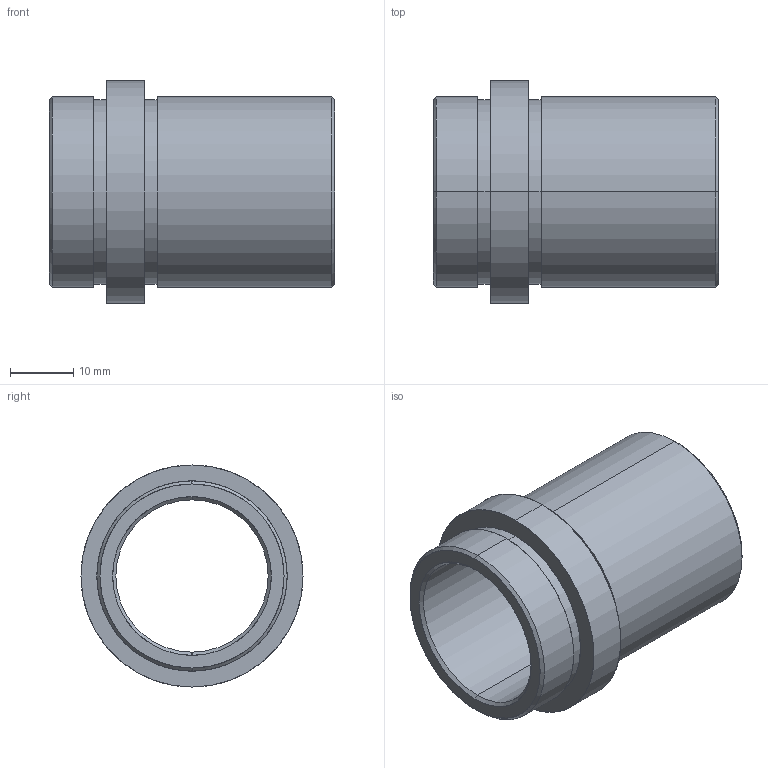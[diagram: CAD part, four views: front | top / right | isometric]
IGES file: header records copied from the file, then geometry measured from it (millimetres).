
Start section: SolidWorks IGES FILE using analytic representation for surfaces
Global section: file name: D:\zzzzz\Delta\D21\24\D21 - 24x36.IGS; native system: SolidWorks 2004 by SolidWorks Corporation; preprocessor: Version 5.3; author: Hkn; date: 080326.192726; units: millimetre
Bounding box: 45 x 35 x 35 mm (x, y, z)
Surface area: 8821.2 mm2 (no closed solid volume)
Topology: 0 solids, 0 shells, 26 faces, 784 edges, 784 vertices
Faces by surface type: revolution 20, bspline 6
